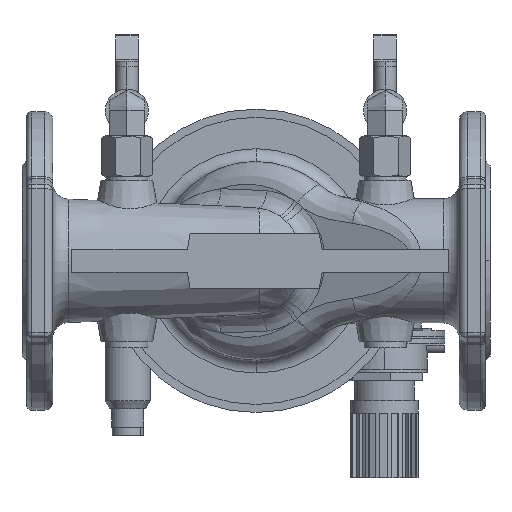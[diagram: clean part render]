
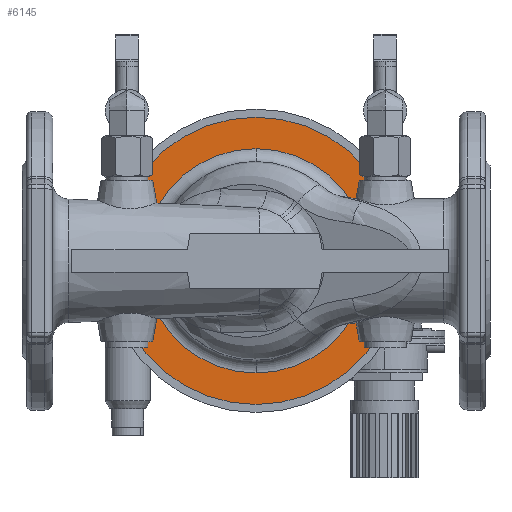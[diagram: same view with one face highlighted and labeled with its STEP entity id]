
A CAD part, front view. The second image highlights one B-rep face of the part: STEP entity #6145.
In plain terms, the highlighted planar face has unit normal (0, -1, 0).
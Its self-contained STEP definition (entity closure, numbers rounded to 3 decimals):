
#888 = VERTEX_POINT ( 'NONE', #18627 ) ;
#1615 = PLANE ( 'NONE',  #9003 ) ;
#2697 = AXIS2_PLACEMENT_3D ( 'NONE', #31783, #31450, #19185 ) ;
#2854 = ORIENTED_EDGE ( 'NONE', *, *, #3646, .T. ) ;
#3646 = EDGE_CURVE ( 'Defeatured_0_58+Defeatured_0_113+Defeatured_0_113+Defeatured_0_113', #11250, #888, #25362, .T. ) ;
#4024 = DIRECTION ( 'NONE',  ( 0., -1., 0. ) ) ;
#5512 = EDGE_LOOP ( 'NONE', ( #19051, #9371 ) ) ;
#5663 = VERTEX_POINT ( 'NONE', #17974 ) ;
#5969 = EDGE_CURVE ( 'Defeatured_0_58+Defeatured_0_11+Defeatured_0_11+Defeatured_0_11', #5663, #30176, #27033, .T. ) ;
#6145 = ADVANCED_FACE ( 'Defeatured_0_58', ( #26132, #23711 ), #1615, .T. ) ;
#6701 = CARTESIAN_POINT ( 'NONE',  ( 0., 86.5, 89. ) ) ;
#7442 = CIRCLE ( 'NONE', #11550, 69.5 ) ;
#8718 = DIRECTION ( 'NONE',  ( 0., 0., -1. ) ) ;
#8923 = DIRECTION ( 'NONE',  ( 0., 1., 0. ) ) ;
#9003 = AXIS2_PLACEMENT_3D ( 'NONE', #16801, #4024, #8718 ) ;
#9371 = ORIENTED_EDGE ( 'NONE', *, *, #31345, .T. ) ;
#10544 = CIRCLE ( 'NONE', #13200, 89. ) ;
#11250 = VERTEX_POINT ( 'NONE', #24769 ) ;
#11550 = AXIS2_PLACEMENT_3D ( 'NONE', #28926, #8923, #12160 ) ;
#12160 = DIRECTION ( 'NONE',  ( 0., 0., -1. ) ) ;
#13200 = AXIS2_PLACEMENT_3D ( 'NONE', #16269, #14452, #31116 ) ;
#14452 = DIRECTION ( 'NONE',  ( 0., -1., 0. ) ) ;
#16269 = CARTESIAN_POINT ( 'NONE',  ( 0., 86.5, 0. ) ) ;
#16801 = CARTESIAN_POINT ( 'NONE',  ( 61.5, 86.5, 0. ) ) ;
#17330 = DIRECTION ( 'NONE',  ( 0., -1., 0. ) ) ;
#17974 = CARTESIAN_POINT ( 'NONE',  ( 0., 86.5, -89. ) ) ;
#18627 = CARTESIAN_POINT ( 'NONE',  ( 0., 86.5, -69.5 ) ) ;
#19051 = ORIENTED_EDGE ( 'NONE', *, *, #5969, .T. ) ;
#19185 = DIRECTION ( 'NONE',  ( 0., 0., -1. ) ) ;
#23711 = FACE_OUTER_BOUND ( 'NONE', #5512, .T. ) ;
#24769 = CARTESIAN_POINT ( 'NONE',  ( 0., 86.5, 69.5 ) ) ;
#25230 = EDGE_CURVE ( 'Defeatured_0_58+Defeatured_0_113+Defeatured_0_113+Defeatured_0_113', #888, #11250, #7442, .T. ) ;
#25362 = CIRCLE ( 'NONE', #2697, 69.5 ) ;
#26132 = FACE_BOUND ( 'NONE', #27142, .T. ) ;
#26241 = ORIENTED_EDGE ( 'NONE', *, *, #25230, .T. ) ;
#27033 = CIRCLE ( 'NONE', #29617, 89. ) ;
#27142 = EDGE_LOOP ( 'NONE', ( #26241, #2854 ) ) ;
#27155 = DIRECTION ( 'NONE',  ( 0., 0., -1. ) ) ;
#28926 = CARTESIAN_POINT ( 'NONE',  ( 0., 86.5, 0. ) ) ;
#29579 = CARTESIAN_POINT ( 'NONE',  ( 0., 86.5, 0. ) ) ;
#29617 = AXIS2_PLACEMENT_3D ( 'NONE', #29579, #17330, #27155 ) ;
#30176 = VERTEX_POINT ( 'NONE', #6701 ) ;
#31116 = DIRECTION ( 'NONE',  ( 0., 0., -1. ) ) ;
#31345 = EDGE_CURVE ( 'Defeatured_0_58+Defeatured_0_11+Defeatured_0_11+Defeatured_0_11', #30176, #5663, #10544, .T. ) ;
#31450 = DIRECTION ( 'NONE',  ( 0., 1., 0. ) ) ;
#31783 = CARTESIAN_POINT ( 'NONE',  ( 0., 86.5, 0. ) ) ;
